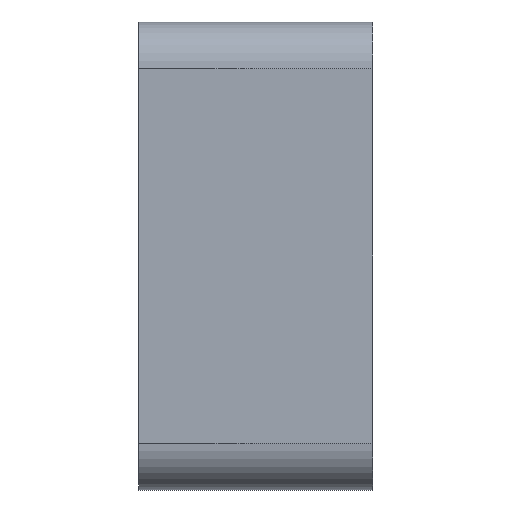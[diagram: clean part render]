
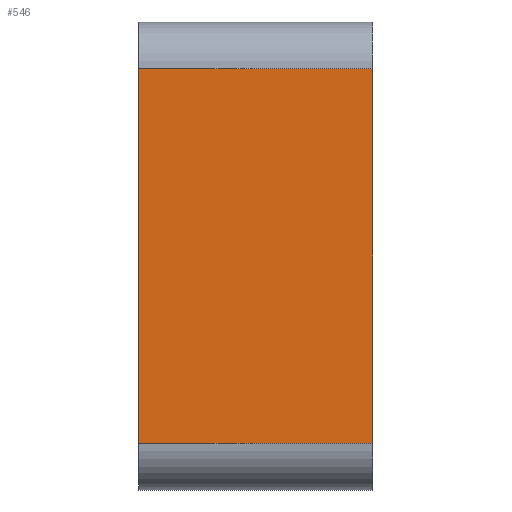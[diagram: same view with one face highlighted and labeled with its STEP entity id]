
A CAD part, left-side view. The second image highlights one B-rep face of the part: STEP entity #546.
In plain terms, the highlighted planar face has unit normal (-1, 0, 0).
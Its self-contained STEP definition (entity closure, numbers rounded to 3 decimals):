
#546=ADVANCED_FACE('',(#1083),#1084,.T.);
#1083=FACE_OUTER_BOUND('',#1612,.T.);
#1084=PLANE('',#1613);
#1612=EDGE_LOOP('',(#3101,#3102,#3103,#3104));
#1613=AXIS2_PLACEMENT_3D('',#3105,#3106,#3107);
#3101=ORIENTED_EDGE('',*,*,#3934,.T.);
#3102=ORIENTED_EDGE('',*,*,#3915,.F.);
#3103=ORIENTED_EDGE('',*,*,#3903,.F.);
#3104=ORIENTED_EDGE('',*,*,#3932,.T.);
#3105=CARTESIAN_POINT('',(-20.0,10.0,0.0));
#3106=DIRECTION('',(-1.0,0.0,0.0));
#3107=DIRECTION('',(0.0,0.0,-1.0));
#3903=EDGE_CURVE('',#4878,#4880,#4881,.T.);
#3915=EDGE_CURVE('',#4880,#4893,#4897,.T.);
#3932=EDGE_CURVE('',#4878,#4917,#4919,.T.);
#3934=EDGE_CURVE('',#4917,#4893,#4921,.T.);
#4878=VERTEX_POINT('',#6174);
#4880=VERTEX_POINT('',#6176);
#4881=LINE('',#6177,#6178);
#4893=VERTEX_POINT('',#6193);
#4897=LINE('',#6198,#6199);
#4917=VERTEX_POINT('',#6226);
#4919=LINE('',#6228,#6229);
#4921=LINE('',#6231,#6232);
#6174=CARTESIAN_POINT('',(-20.0,10.0,-16.0));
#6176=CARTESIAN_POINT('',(-20.0,10.0,16.0));
#6177=CARTESIAN_POINT('',(-20.0,10.0,-16.0));
#6178=VECTOR('',#7027,1.0);
#6193=CARTESIAN_POINT('',(-20.0,-10.0,16.0));
#6198=CARTESIAN_POINT('',(-20.0,10.0,16.0));
#6199=VECTOR('',#7044,1.0);
#6226=CARTESIAN_POINT('',(-20.0,-10.0,-16.0));
#6228=CARTESIAN_POINT('',(-20.0,10.0,-16.0));
#6229=VECTOR('',#7061,1.0);
#6231=CARTESIAN_POINT('',(-20.0,-10.0,-16.0));
#6232=VECTOR('',#7062,1.0);
#7027=DIRECTION('',(0.0,0.0,1.0));
#7044=DIRECTION('',(0.0,-1.0,0.0));
#7061=DIRECTION('',(0.0,-1.0,0.0));
#7062=DIRECTION('',(0.0,0.0,1.0));
